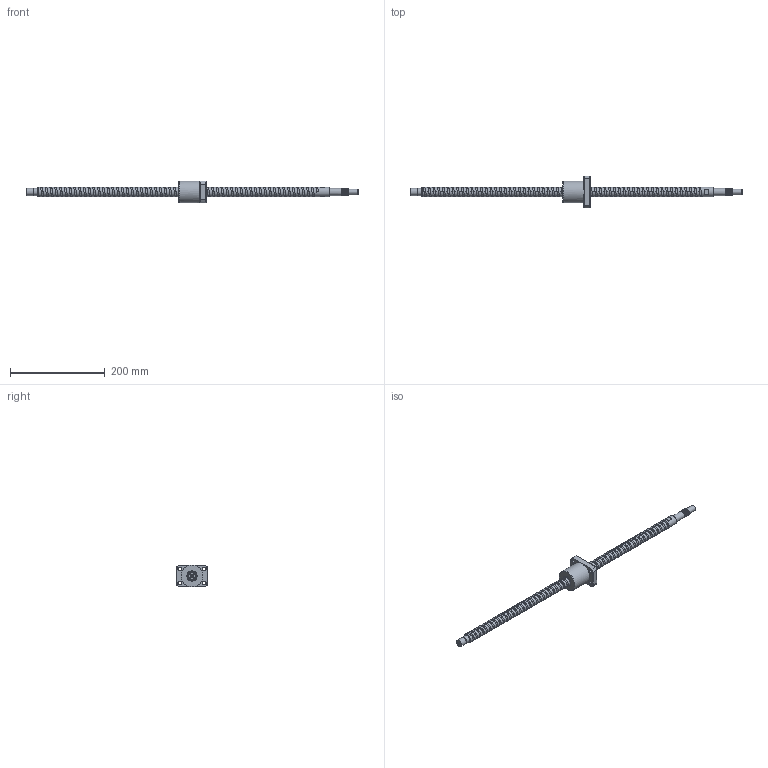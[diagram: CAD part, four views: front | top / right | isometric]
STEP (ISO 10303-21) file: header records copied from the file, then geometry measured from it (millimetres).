
FILE_DESCRIPTION (( 'STEP AP203' ), '1' );
FILE_NAME ('XSVR02010B1DGC5-699-P1.step', '2024-06-03T06:19:31', ( '' ), ( '' ), 'SwSTEP 2.0', 'SolidWorks 2022', '' );
FILE_SCHEMA (( 'CONFIG_CONTROL_DESIGN' ));
Length unit declared in the file: millimetre
Products named in the file (1): XSVR02010B1DGC5-699-P1
Bounding box: 699 x 66 x 46 mm (x, y, z)
Volume: 278860.1 mm3; surface area: 66121.4 mm2
Topology: 2 solids, 2 shells, 219 faces, 606 edges, 399 vertices
Faces by surface type: cylinder 119, plane 40, bspline 31, cone 20, torus 9
Full cylindrical faces by diameter (mm): 4 x1, 5 x15, 6.6 x4, 11 x4, 12 x1, 14.3 x1, 15 x16, 20 x59, 22.3 x1, 46 x1
Entity records: 26459 total; most frequent: CARTESIAN_POINT 23801, ORIENTED_EDGE 594, DIRECTION 409, EDGE_CURVE 297, VERTEX_POINT 212, EDGE_LOOP 187, AXIS2_PLACEMENT_3D 179, FACE_OUTER_BOUND 150
